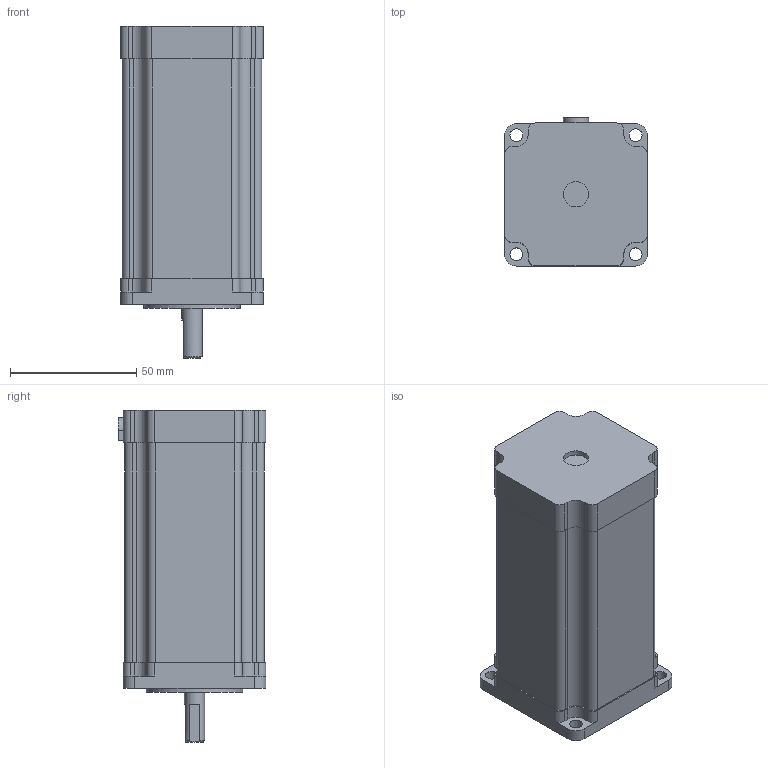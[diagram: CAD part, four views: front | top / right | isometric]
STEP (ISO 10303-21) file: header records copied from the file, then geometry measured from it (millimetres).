
FILE_DESCRIPTION(('STEP AP214'), '1');
FILE_NAME('PL57H110-d8 - Øàãîâûé ýëåêòðîäâèãàòåëü', '', ('UNSPECIFIED'), ('UNSPECIFIED'), 'ASCON STEP Converter 1.3', 'ASCON Math Kernel', '');
FILE_SCHEMA(('AUTOMOTIVE_DESIGN { 1 0 10303 214 3 1 1}'));
Length unit declared in the file: millimetre
Products named in the file (1): PL57H110-4.0-4
Bounding box: 56.4 x 58.4 x 131.3 mm (x, y, z)
Volume: 306644.7 mm3; surface area: 30047.1 mm2
Topology: 1 solids, 1 shells, 475 faces, 1279 edges, 852 vertices
Faces by surface type: plane 298, extrusion 122, cylinder 53, cone 2
Full cylindrical faces by diameter (mm): 4 x1, 5.1 x4, 8 x1, 10 x1, 38.1 x1
Entity records: 19136 total; most frequent: CARTESIAN_POINT 3704, ORIENTED_EDGE 2542, DIRECTION 1973, EDGE_CURVE 1271, VECTOR 1033, LINE 911, VERTEX_POINT 852, EDGE_LOOP 537
